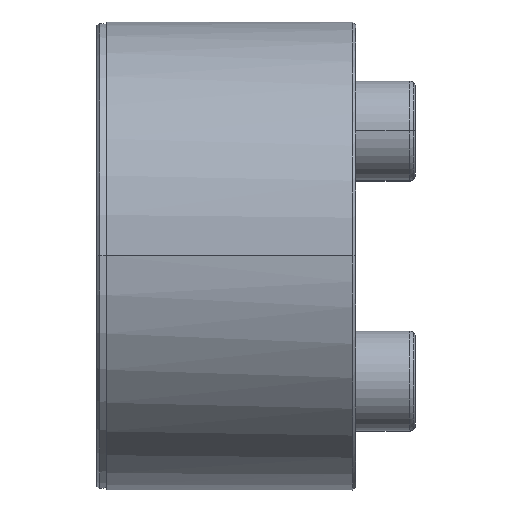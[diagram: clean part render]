
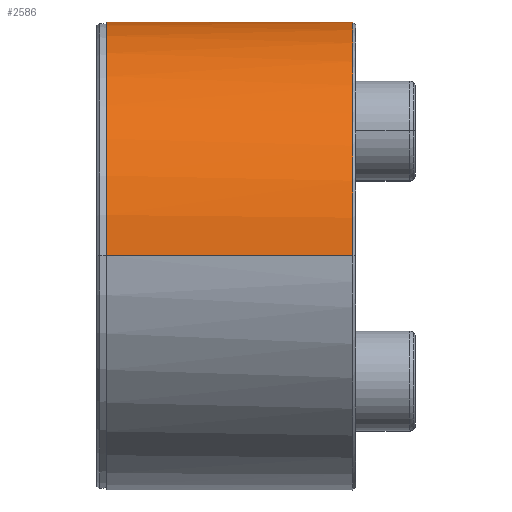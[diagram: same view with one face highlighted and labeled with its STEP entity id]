
A CAD part, top view. The second image highlights one B-rep face of the part: STEP entity #2586.
In plain terms, the highlighted cylindrical face has radius 23.5 mm (diameter 47 mm), a partial arc.
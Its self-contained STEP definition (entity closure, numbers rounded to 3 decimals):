
#3 = VERTEX_POINT ( 'NONE', #2763 ) ;
#21 = VERTEX_POINT ( 'NONE', #4826 ) ;
#77 = VERTEX_POINT ( 'NONE', #1554 ) ;
#193 = AXIS2_PLACEMENT_3D ( 'NONE', #4656, #3429, #3804 ) ;
#230 = CARTESIAN_POINT ( 'NONE',  ( 25.689, 17.704, -15.53 ) ) ;
#376 = CARTESIAN_POINT ( 'NONE',  ( 25.689, 22.3, 7.572 ) ) ;
#424 = CARTESIAN_POINT ( 'NONE',  ( 25.689, -0.001, 23.5 ) ) ;
#738 = DIRECTION ( 'NONE',  ( -1., 0., 0. ) ) ;
#778 = CARTESIAN_POINT ( 'NONE',  ( 25.689, 20.394, 11.777 ) ) ;
#857 = CARTESIAN_POINT ( 'NONE',  ( 25.689, 14.334, -18.685 ) ) ;
#982 = CARTESIAN_POINT ( 'NONE',  ( 25.689, 3.075, -23.349 ) ) ;
#1032 = CARTESIAN_POINT ( 'NONE',  ( 25.689, -0.001, -23.5 ) ) ;
#1126 = ORIENTED_EDGE ( 'NONE', *, *, #2160, .T. ) ;
#1132 = CARTESIAN_POINT ( 'NONE',  ( 25.689, 23.5, -1.538 ) ) ;
#1184 = DIRECTION ( 'NONE',  ( 1., 0., 0. ) ) ;
#1185 = CARTESIAN_POINT ( 'NONE',  ( 25.689, 1.537, 23.5 ) ) ;
#1224 = VECTOR ( 'NONE', #1519, 1000. ) ;
#1331 = VERTEX_POINT ( 'NONE', #3301 ) ;
#1362 = CARTESIAN_POINT ( 'NONE',  ( 25.689, 1.537, -23.5 ) ) ;
#1519 = DIRECTION ( 'NONE',  ( 1., 0., 0. ) ) ;
#1554 = CARTESIAN_POINT ( 'NONE',  ( 25.689, -0.001, 23.5 ) ) ;
#1623 = CARTESIAN_POINT ( 'NONE',  ( 25.689, 23.5, 1.538 ) ) ;
#1650 = CARTESIAN_POINT ( 'NONE',  ( 25.689, 18.685, 14.335 ) ) ;
#1683 = CARTESIAN_POINT ( 'NONE',  ( 25.689, 11.776, 20.394 ) ) ;
#1749 = VECTOR ( 'NONE', #1184, 1000. ) ;
#1827 = CARTESIAN_POINT ( 'NONE',  ( 25.689, 11.776, -20.394 ) ) ;
#1947 = CIRCLE ( 'NONE', #2553, 23.5 ) ;
#2086 = CARTESIAN_POINT ( 'NONE',  ( 25.689, 10.413, 21.123 ) ) ;
#2121 = ORIENTED_EDGE ( 'NONE', *, *, #3305, .T. ) ;
#2131 = ORIENTED_EDGE ( 'NONE', *, *, #3475, .F. ) ;
#2160 = EDGE_CURVE ( 'NONE', #21, #77, #3255, .T. ) ;
#2469 = EDGE_CURVE ( 'NONE', #1331, #3, #3600, .T. ) ;
#2509 = ORIENTED_EDGE ( 'NONE', *, *, #2469, .F. ) ;
#2553 = AXIS2_PLACEMENT_3D ( 'NONE', #3575, #738, #3544 ) ;
#2586 = ADVANCED_FACE ( 'NONE', ( #4181 ), #2973, .T. ) ;
#2763 = CARTESIAN_POINT ( 'NONE',  ( 25.689, -0.001, -23.5 ) ) ;
#2803 = CARTESIAN_POINT ( 'NONE',  ( 25.689, 22.748, -6.093 ) ) ;
#2829 = CARTESIAN_POINT ( 'NONE',  ( 25.689, 17.704, 15.53 ) ) ;
#2903 = B_SPLINE_CURVE_WITH_KNOTS ( 'NONE', 3,
 ( #424, #1185, #3257, #4533, #4142, #2086, #1683, #5318, #3746, #2829, #1650, #778, #4117, #376, #3342, #3696, #1623, #1132, #3280, #2803, #4963, #3438, #5202, #5177, #230, #4763, #857, #1827, #5122, #4297, #3497, #982, #1362, #1032 ),
 .UNSPECIFIED., .F., .F.,
 ( 4, 2, 2, 2, 2, 2, 2, 2, 2, 2, 2, 2, 2, 2, 2, 2, 4 ),
 ( 0.247, 0.278, 0.31, 0.342, 0.373, 0.405, 0.437, 0.468, 0.5, 0.532, 0.563, 0.595, 0.627, 0.658, 0.69, 0.722, 0.753 ),
 .UNSPECIFIED. ) ;
#2973 = CYLINDRICAL_SURFACE ( 'NONE', #193, 23.5 ) ;
#3255 = LINE ( 'NONE', #4941, #1749 ) ;
#3257 = CARTESIAN_POINT ( 'NONE',  ( 25.689, 3.075, 23.349 ) ) ;
#3280 = CARTESIAN_POINT ( 'NONE',  ( 25.689, 23.349, -3.076 ) ) ;
#3301 = CARTESIAN_POINT ( 'NONE',  ( 0.989, 0., -23.5 ) ) ;
#3305 = EDGE_CURVE ( 'NONE', #77, #3, #2903, .T. ) ;
#3342 = CARTESIAN_POINT ( 'NONE',  ( 25.689, 22.748, 6.093 ) ) ;
#3399 = EDGE_LOOP ( 'NONE', ( #2509, #2131, #1126, #2121 ) ) ;
#3429 = DIRECTION ( 'NONE',  ( 1., 0., 0. ) ) ;
#3438 = CARTESIAN_POINT ( 'NONE',  ( 25.689, 21.122, -10.414 ) ) ;
#3475 = EDGE_CURVE ( 'NONE', #21, #1331, #1947, .T. ) ;
#3497 = CARTESIAN_POINT ( 'NONE',  ( 25.689, 6.092, -22.749 ) ) ;
#3544 = DIRECTION ( 'NONE',  ( 0., -0.999, 0.043 ) ) ;
#3575 = CARTESIAN_POINT ( 'NONE',  ( 0.989, 0., 0. ) ) ;
#3600 = LINE ( 'NONE', #5277, #1224 ) ;
#3696 = CARTESIAN_POINT ( 'NONE',  ( 25.689, 23.349, 3.076 ) ) ;
#3746 = CARTESIAN_POINT ( 'NONE',  ( 25.689, 15.529, 17.705 ) ) ;
#3804 = DIRECTION ( 'NONE',  ( 0., 0., 1. ) ) ;
#4117 = CARTESIAN_POINT ( 'NONE',  ( 25.689, 21.122, 10.414 ) ) ;
#4142 = CARTESIAN_POINT ( 'NONE',  ( 25.689, 7.571, 22.3 ) ) ;
#4181 = FACE_OUTER_BOUND ( 'NONE', #3399, .T. ) ;
#4297 = CARTESIAN_POINT ( 'NONE',  ( 25.689, 7.571, -22.3 ) ) ;
#4533 = CARTESIAN_POINT ( 'NONE',  ( 25.689, 6.092, 22.749 ) ) ;
#4656 = CARTESIAN_POINT ( 'NONE',  ( 0.989, 0., 0. ) ) ;
#4763 = CARTESIAN_POINT ( 'NONE',  ( 25.689, 15.529, -17.705 ) ) ;
#4826 = CARTESIAN_POINT ( 'NONE',  ( 0.989, 0., 23.5 ) ) ;
#4941 = CARTESIAN_POINT ( 'NONE',  ( 0.989, 0., 23.5 ) ) ;
#4963 = CARTESIAN_POINT ( 'NONE',  ( 25.689, 22.3, -7.572 ) ) ;
#5122 = CARTESIAN_POINT ( 'NONE',  ( 25.689, 10.413, -21.123 ) ) ;
#5177 = CARTESIAN_POINT ( 'NONE',  ( 25.689, 18.685, -14.335 ) ) ;
#5202 = CARTESIAN_POINT ( 'NONE',  ( 25.689, 20.394, -11.777 ) ) ;
#5277 = CARTESIAN_POINT ( 'NONE',  ( 0.989, 0., -23.5 ) ) ;
#5318 = CARTESIAN_POINT ( 'NONE',  ( 25.689, 14.334, 18.685 ) ) ;
